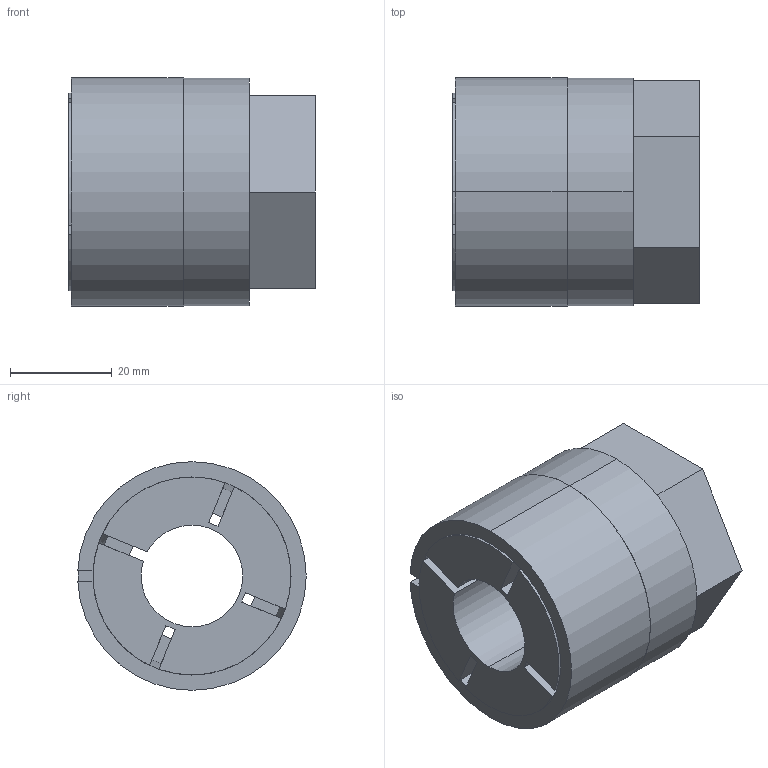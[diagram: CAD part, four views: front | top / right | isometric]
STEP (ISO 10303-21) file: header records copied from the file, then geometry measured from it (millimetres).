
FILE_DESCRIPTION (( 'STEP AP203' ), '1' );
FILE_NAME ('KBS 56 - 20 x 45.STEP', '2015-07-07T20:21:25', ( '' ), ( '' ), 'SwSTEP 2.0', 'SolidWorks 2010', '' );
FILE_SCHEMA (( 'CONFIG_CONTROL_DESIGN' ));
Length unit declared in the file: millimetre
Products named in the file (1): KBS 56 - 20 x 45
Bounding box: 48.5 x 44.98 x 45 mm (x, y, z)
Volume: 54756.4 mm3; surface area: 25445 mm2
Topology: 3 solids, 3 shells, 53 faces, 138 edges, 92 vertices
Faces by surface type: plane 30, cylinder 15, cone 8
Entity records: 1731 total; most frequent: CARTESIAN_POINT 320, DIRECTION 282, ORIENTED_EDGE 276, EDGE_CURVE 138, AXIS2_PLACEMENT_3D 100, VERTEX_POINT 92, LINE 82, VECTOR 82
